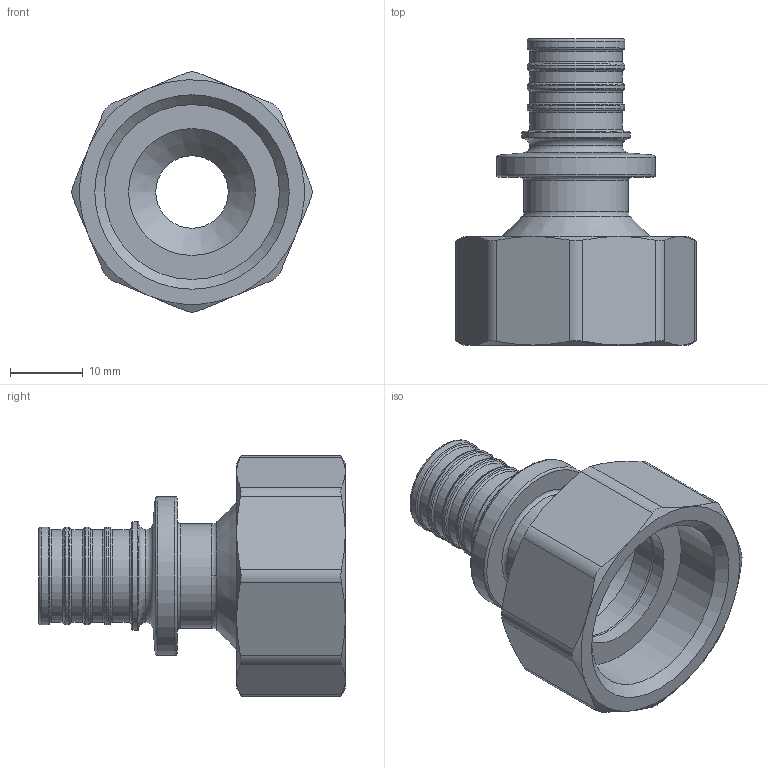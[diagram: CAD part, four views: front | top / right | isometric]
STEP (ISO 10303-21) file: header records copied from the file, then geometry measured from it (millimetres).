
FILE_DESCRIPTION(('STEP AP203'), '1');
FILE_NAME('ﾂﾐ.302612.015.000 ﾑﾁ - VTm.422.G.001605 ﾔ頸. - 裝', '2024-01-23T13:26:11', ('Boss'), (''), 'C3D Converter', 'C3D Toolkit', '');
FILE_SCHEMA(('CONFIG_CONTROL_DESIGN'));
Length unit declared in the file: millimetre
Products named in the file (4): ВР.302612.015.000 СБ; ВР.714641.012; ВР.758421.029; ВР.305323.016
Assembly tree (3 placements, depth 2):
  ВР.302612.015.000 СБ
    ВР.714641.012
    ВР.758421.029
    ВР.305323.016
Bounding box: 33.14 x 42.3 x 33.14 mm (x, y, z)
Volume: 9158.8 mm3; surface area: 7869.3 mm2
Topology: 3 solids, 3 shells, 95 faces, 196 edges, 112 vertices
Faces by surface type: cylinder 27, torus 26, cone 23, plane 19
Full cylindrical faces by diameter (mm): 10 x1, 12.8 x4, 13.5 x4, 14.4 x1, 15 x1, 17.5 x2, 21.4 x1, 21.9 x1, 22 x1, 24.118 x1, 24.2 x2
Entity records: 3262 total; most frequent: CARTESIAN_POINT 1390, DIRECTION 358, ORIENTED_EDGE 270, AXIS2_PLACEMENT_3D 171, EDGE_LOOP 152, EDGE_CURVE 135, VERTEX_POINT 107, FACE_OUTER_BOUND 98
